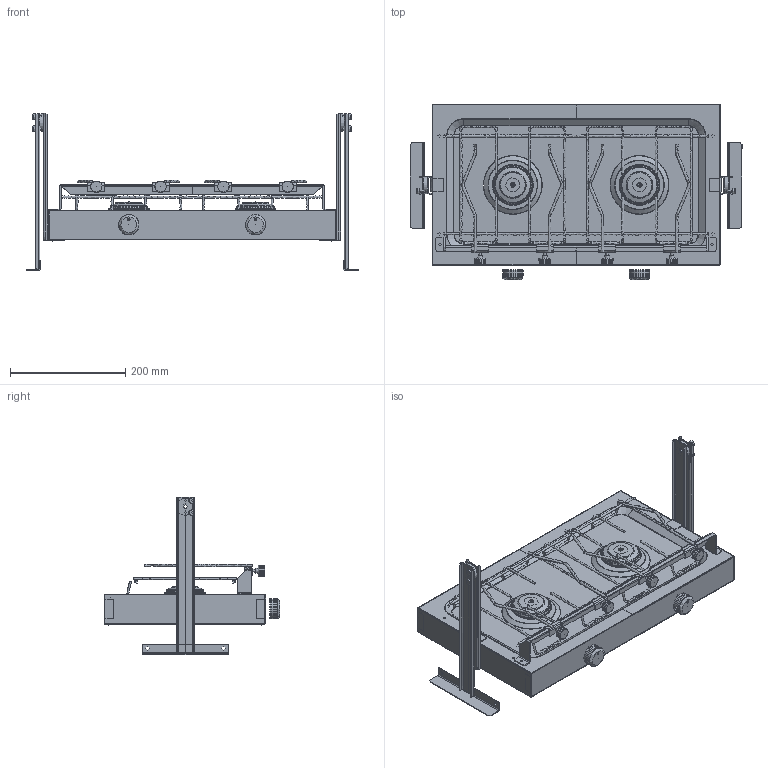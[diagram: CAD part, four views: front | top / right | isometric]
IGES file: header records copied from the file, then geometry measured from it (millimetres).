
Start section:  Alias DesignStudio for Windows version 12.0 IGES version 5.3
Global section: file name: C:\00000LAVORI_IN_CORSO\techimpex\sailor\sailor avvitamento.iges; native system: Alias DesignStudio for Windows V12.0; preprocessor: 12.0; author: admin; organization: Unknown; date: 20080806.092631; units: millimetre
Bounding box: 576.76 x 304.51 x 273.08 mm (x, y, z)
Surface area: 821157.9 mm2 (no closed solid volume)
Topology: 0 solids, 0 shells, 1701 faces, 12301 edges, 11877 vertices
Faces by surface type: bspline 1701
